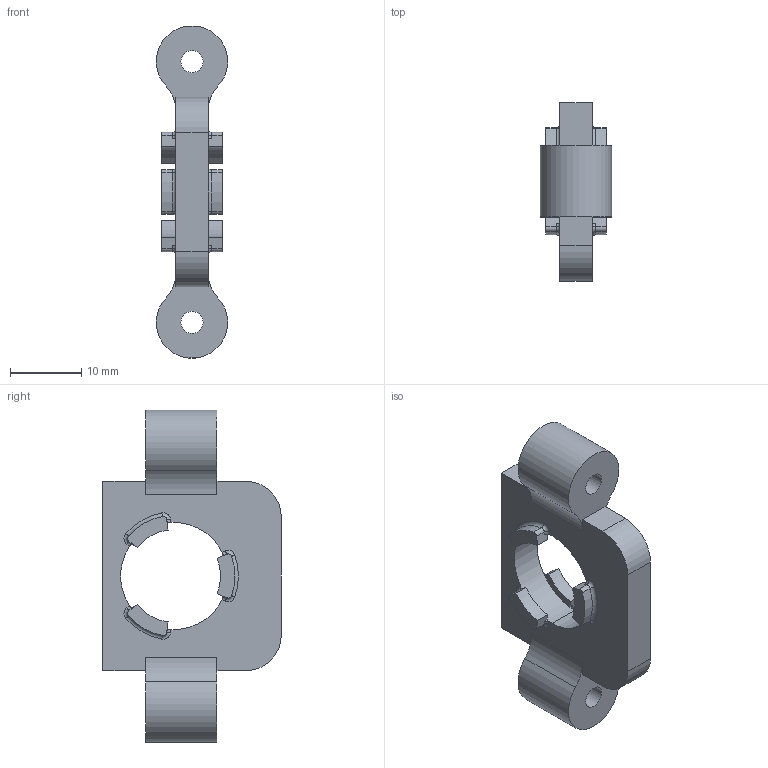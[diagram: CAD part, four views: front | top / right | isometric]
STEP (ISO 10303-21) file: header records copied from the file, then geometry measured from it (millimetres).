
FILE_DESCRIPTION((''),'2;1');
FILE_NAME('0000237151_PRT','2025-11-12T18:39:18',('Wyndorps'),(''),'CREO PARAMETRIC BY PTC INC, 2025010','CREO PARAMETRIC BY PTC INC, 2025010','');
FILE_SCHEMA(('CONFIG_CONTROL_DESIGN'));
Length unit declared in the file: millimetre
Products named in the file (1): 0000237151_PRT
Bounding box: 9.98 x 25 x 46.51 mm (x, y, z)
Volume: 3749.4 mm3; surface area: 2789.6 mm2
Topology: 1 solids, 1 shells, 104 faces, 282 edges, 180 vertices
Faces by surface type: cylinder 50, plane 36, torus 18
Entity records: 3450 total; most frequent: CARTESIAN_POINT 686, DIRECTION 608, ORIENTED_EDGE 564, EDGE_CURVE 282, AXIS2_PLACEMENT_3D 234, VERTEX_POINT 180, VECTOR 140, LINE 140
